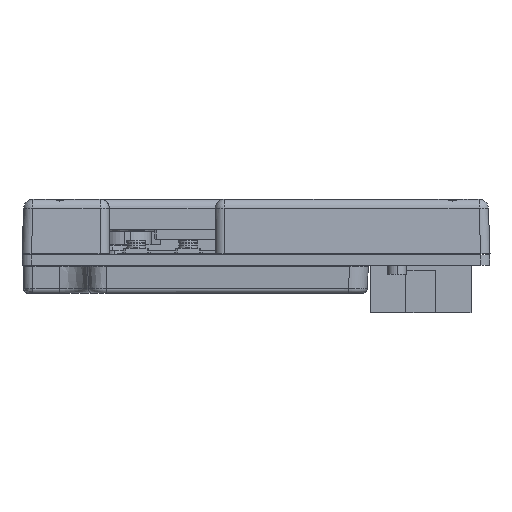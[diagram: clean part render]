
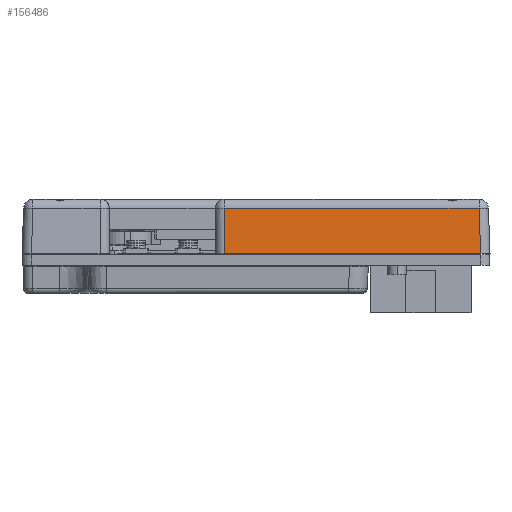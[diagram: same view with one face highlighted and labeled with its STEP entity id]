
A CAD part, left-side view. The second image highlights one B-rep face of the part: STEP entity #156486.
In plain terms, the highlighted planar face has unit normal (-0.999, 0, 0.035).
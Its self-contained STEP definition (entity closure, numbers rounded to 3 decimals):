
#141217=DIRECTION('',(0.,-1.,0.));
#141218=VECTOR('',#141217,27.359);
#141219=CARTESIAN_POINT('',(-4.431,18.438,0.));
#141220=LINE('',#141219,#141218);
#141230=CARTESIAN_POINT('',(-4.43,-8.921,0.));
#141419=DIRECTION('',(0.,1.,0.));
#141420=VECTOR('',#141419,27.189);
#141421=CARTESIAN_POINT('',(-4.26,-8.751,
4.865));
#141422=LINE('',#141421,#141420);
#145222=DIRECTION('',(-0.035,-0.035,
-0.999));
#145223=VECTOR('',#145222,4.871);
#145224=CARTESIAN_POINT('',(-4.26,-8.751,
4.865));
#145225=LINE('',#145224,#145223);
#145229=DIRECTION('',(-0.035,0.,-0.999));
#145230=VECTOR('',#145229,4.868);
#145231=CARTESIAN_POINT('',(-4.261,18.438,
4.865));
#145232=LINE('',#145231,#145230);
#151694=VERTEX_POINT('',#141230);
#151695=CARTESIAN_POINT('',(-4.26,-8.751,
4.865));
#151696=VERTEX_POINT('',#151695);
#151813=CARTESIAN_POINT('',(-4.431,18.438,0.));
#151814=VERTEX_POINT('',#151813);
#151815=CARTESIAN_POINT('',(-4.261,18.438,
4.865));
#151816=VERTEX_POINT('',#151815);
#156473=CARTESIAN_POINT('',(-4.432,42.286,0.));
#156474=DIRECTION('',(-0.999,0.,0.035));
#156475=DIRECTION('',(0.,1.,0.));
#156476=AXIS2_PLACEMENT_3D('',#156473,#156474,#156475);
#156477=PLANE('',#156476);
#156478=ORIENTED_EDGE('',*,*,#153232,.F.);
#156480=ORIENTED_EDGE('',*,*,#156479,.T.);
#156481=ORIENTED_EDGE('',*,*,#153094,.F.);
#156483=ORIENTED_EDGE('',*,*,#156482,.F.);
#156484=EDGE_LOOP('',(#156478,#156480,#156481,#156483));
#156485=FACE_OUTER_BOUND('',#156484,.F.);
#156486=ADVANCED_FACE('',(#156485),#156477,.T.);
#153094=EDGE_CURVE('',#151814,#151694,#141220,.T.);
#153232=EDGE_CURVE('',#151696,#151816,#141422,.T.);
#156479=EDGE_CURVE('',#151696,#151694,#145225,.T.);
#156482=EDGE_CURVE('',#151816,#151814,#145232,.T.);
